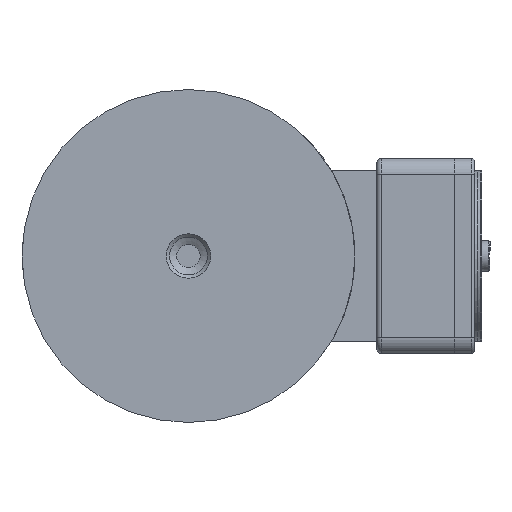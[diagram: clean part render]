
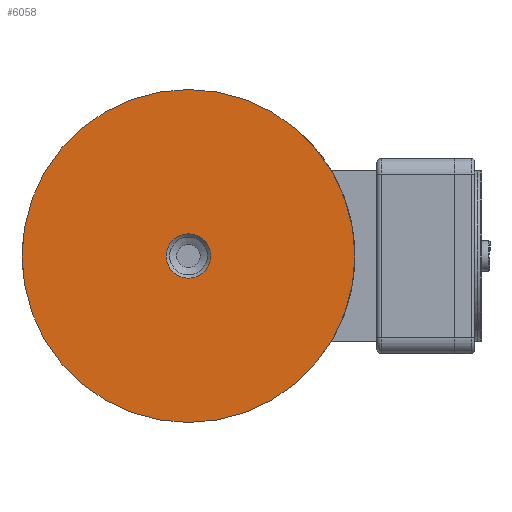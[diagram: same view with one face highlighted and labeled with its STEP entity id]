
A CAD part, front view. The second image highlights one B-rep face of the part: STEP entity #6058.
In plain terms, the highlighted planar face has unit normal (0, -1, 0).
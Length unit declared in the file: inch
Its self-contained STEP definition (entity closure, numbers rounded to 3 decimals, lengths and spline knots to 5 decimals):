
#253=FACE_BOUND('',#864,.T.);
#312=PLANE('',#6466);
#493=FACE_OUTER_BOUND('',#863,.T.);
#863=EDGE_LOOP('',(#3891));
#864=EDGE_LOOP('',(#3892));
#2102=CIRCLE('',#6467,2.99213);
#2103=CIRCLE('',#6468,0.39949);
#2434=VERTEX_POINT('',#8892);
#2435=VERTEX_POINT('',#8894);
#3000=EDGE_CURVE('',#2434,#2434,#2102,.T.);
#3001=EDGE_CURVE('',#2435,#2435,#2103,.T.);
#3891=ORIENTED_EDGE('',*,*,#3000,.F.);
#3892=ORIENTED_EDGE('',*,*,#3001,.F.);
#6058=ADVANCED_FACE('',(#493,#253),#312,.T.);
#6466=AXIS2_PLACEMENT_3D('',#8891,#7140,#7141);
#6467=AXIS2_PLACEMENT_3D('',#8893,#7142,#7143);
#6468=AXIS2_PLACEMENT_3D('',#8895,#7144,#7145);
#7140=DIRECTION('center_axis',(0.,-1.,0.));
#7141=DIRECTION('ref_axis',(0.,0.,-1.));
#7142=DIRECTION('center_axis',(0.,1.,0.));
#7143=DIRECTION('ref_axis',(1.,0.,0.));
#7144=DIRECTION('center_axis',(0.,-1.,0.));
#7145=DIRECTION('ref_axis',(-1.,0.,0.));
#8891=CARTESIAN_POINT('Origin',(2.99213,-3.62205,0.));
#8892=CARTESIAN_POINT('',(-2.99213,-3.62205,0.));
#8893=CARTESIAN_POINT('Origin',(0.,-3.62205,0.));
#8894=CARTESIAN_POINT('',(0.39949,-3.62205,0.));
#8895=CARTESIAN_POINT('Origin',(0.,-3.62205,0.));
